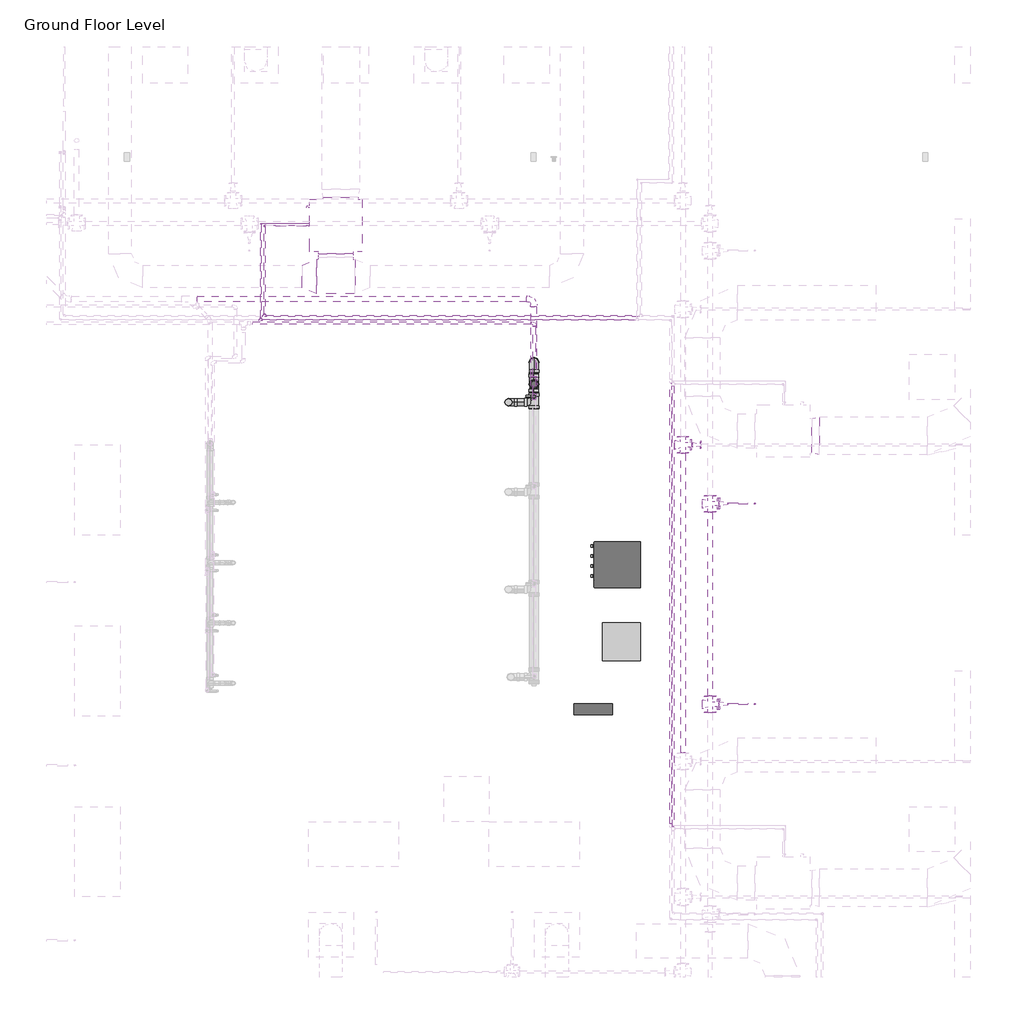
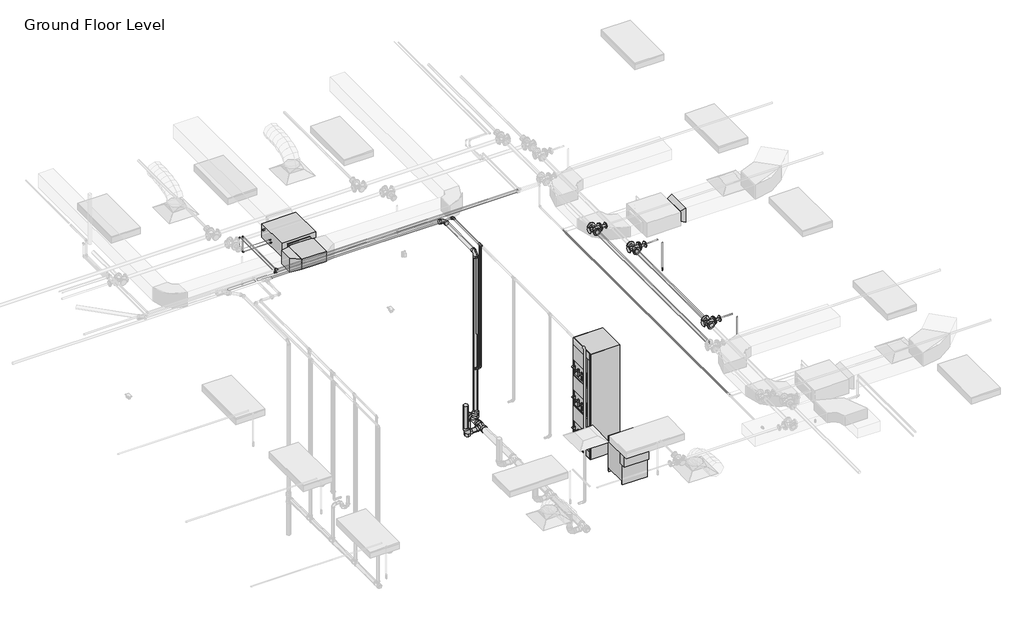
# One storey, part 66 of 74: 29 pipe segments, 24 pipe fittings, 4 duct fittings, 4 proxies, 2 fire suppression terminals, 1 duct segment.
"""IFC4 building model written with IfcOpenShell, lengths in millimetres."""

from ifc_helpers import new_model, si_unit, point, frame, frame_2d, origin, place, context, project, spatial, polyline, circle_curve, trimmed, segment, composite_curve, outline, extrude, transform, mapped, element, save
from components import proxy_75_kva_f23e4866, fcu_daikin_iu_bad131e0, m_circuit_breaker_switchboard_610mmx660mm_e90c0931, m_lighting_and_appliance_panelboard_208v_mlo_100_a_deb79597, m_rectangular_tee_standard_fa4de0e8, m_rectangular_transition_angle_45_degree_2b595dfe, m_rectangular_transition_angle_45_degree_27e6000f, m_rectangular_transition_angle_45_degree_6e5ad010, m_sprinkler_pendent_15_mm_pendent_06fcbd8e, m_bend_pvc_sch_40_dwv_standard_a4b99d37, m_bend_pvc_sch_40_dwv_standard_aa7efa4c, m_bend_pvc_sch_40_dwv_standard_c8221c0d, m_bend_pvc_sch_40_dwv_standard_69456cca, m_elbow_generic_standard_a088f956, m_elbow_generic_standard_2a704253, m_elbow_generic_standard_6b1a80c6, m_elbow_generic_standard_5542be81, m_reducer_flanged_cs_class_150_standard_9dfe9ec5, m_reducer_flanged_cs_class_150_standard_a7631c35, m_reducer_pvc_sch_40_dwv_standard_9996614f, m_tee_generic_standard_cdc1cff5, m_tee_generic_standard_bbfc025c, m_tee_reducing_sanitary_pvc_sch_40_dwv_standard_b49161a9, m_tee_reducing_sanitary_pvc_sch_40_dwv_standard_c42f3c59, m_tee_round_base_flanged_cs_class_150_standard_dd767e04, m_transition_generic_standard_e9aec4dd, m_transition_generic_standard_c2658a33, standard_517a5a8d, standard_72b35c3b

model = new_model("IFC4")

# Units and contexts
model_context = context("Model", 3, world=origin())
ifc_project = project(units=[si_unit("LENGTHUNIT", "METRE", prefix="MILLI")], contexts=[model_context])

# Site, building, storey
site = spatial("IfcSite", under=ifc_project)
building = spatial("IfcBuilding", under=site)
storey = spatial("IfcBuildingStorey", under=building, Name="Ground Floor Level", Elevation=900.0)

# Proxies
placement = place(None, origin())
proxy_75_kva_shape = proxy_75_kva_f23e4866(model_context)
element("IfcBuildingElementProxy", 1, Name="M_Dry Type Transformer - 480-208Y120 - NEMA Type 2 : 75 kVA", ObjectType="M_Dry Type Transformer - 480-208Y120 - NEMA Type 2 : 75 kVA", at=placement, inside=storey, context=model_context, shape_type="MappedRepresentation", body=[
    mapped(proxy_75_kva_shape, transform((4687.1500887, 9221.2802456, 900.0), x_axis=(0.0, -1.0, 0.0), y_axis=(1.0, 0.0, 0.0), z_axis=(0.0, 0.0, 1.0))),
])
fcu_daikin_iu_shape = fcu_daikin_iu_bad131e0(model_context)
element("IfcBuildingElementProxy", 2, Name="FCU-DAIKIN IU : 4.5kW, 230V/50Hz/1Ph", ObjectType="FCU-DAIKIN IU : 4.5kW, 230V/50Hz/1Ph", at=placement, inside=storey, context=model_context, shape_type="MappedRepresentation", body=[
    mapped(fcu_daikin_iu_shape, transform((1027.7672395, 14745.2153534, 3934.0872564), x_axis=(-1.0, 0.0, 0.0), y_axis=(0.0, -1.0, 0.0), z_axis=(0.0, 0.0, 1.0))),
])
m_circuit_breaker_switchboard_610mmx660mm_shape = m_circuit_breaker_switchboard_610mmx660mm_e90c0931(model_context)
element("IfcBuildingElementProxy", 3, Name="M_Circuit Breaker Switchboard : 610mmx660mm", ObjectType="M_Circuit Breaker Switchboard : 610mmx660mm", at=placement, inside=storey, context=model_context, shape_type="MappedRepresentation", body=[
    mapped(m_circuit_breaker_switchboard_610mmx660mm_shape, transform((5071.8659538, 10243.0819772, 900.0), x_axis=(0.0, -1.0, 0.0), y_axis=(1.0, 0.0, 0.0), z_axis=(0.0, 0.0, 1.0))),
])
m_lighting_and_appliance_panelboard_208v_mlo_100_a_shape = m_lighting_and_appliance_panelboard_208v_mlo_100_a_deb79597(model_context)
element("IfcBuildingElementProxy", 4, Name="M_Lighting and Appliance Panelboard - 208V MLO : 100 A", ObjectType="M_Lighting and Appliance Panelboard - 208V MLO : 100 A", at=placement, inside=storey, context=model_context, shape_type="MappedRepresentation", body=[
    mapped(m_lighting_and_appliance_panelboard_208v_mlo_100_a_shape, transform((4444.6213265, 8255.2153534, 1680.9), x_axis=(-1.0, 0.0, 0.0), y_axis=(0.0, 0.0, -1.0), z_axis=(0.0, -1.0, 0.0))),
])

# Duct fittings
m_rectangular_tee_standard_shape = m_rectangular_tee_standard_fa4de0e8(model_context)
element("IfcDuctFitting", 5, ObjectType="M_Rectangular Tee : Standard", at=placement, inside=storey, context=model_context, shape_type="MappedRepresentation", body=[
    mapped(m_rectangular_tee_standard_shape, transform((1027.7672395, 14069.8153534, 4075.2872564), x_axis=(-1.0, 0.0, 0.0), y_axis=(0.0, -1.0, 0.0), z_axis=(0.0, 0.0, 1.0))),
])
m_rectangular_transition_angle_45_degree_shape = m_rectangular_transition_angle_45_degree_2b595dfe(model_context)
element("IfcDuctFitting", 6, ObjectType="M_Rectangular Transition - Angle : 45 Degree", at=placement, inside=storey, context=model_context, shape_type="MappedRepresentation", body=[
    mapped(m_rectangular_transition_angle_45_degree_shape, transform((7344.2139492, 11956.1779527, 4100.0057729), x_axis=(1.0, 0.0, 0.0), y_axis=(0.0, 1.0, 0.0), z_axis=(0.0, 0.0, 1.0))),
])
m_rectangular_transition_angle_45_degree_2_shape = m_rectangular_transition_angle_45_degree_27e6000f(model_context)
element("IfcDuctFitting", 7, ObjectType="M_Rectangular Transition - Angle : 45 Degree", at=placement, inside=storey, context=model_context, shape_type="MappedRepresentation", body=[
    mapped(m_rectangular_transition_angle_45_degree_2_shape, transform((1027.7672395, 14369.8153534, 4075.2872564), x_axis=(0.0, -1.0, 0.0), y_axis=(1.0, 0.0, 0.0), z_axis=(0.0, 0.0, 1.0))),
])
m_rectangular_transition_angle_45_degree_3_shape = m_rectangular_transition_angle_45_degree_6e5ad010(model_context)
element("IfcDuctFitting", 8, ObjectType="M_Rectangular Transition - Angle : 45 Degree", at=placement, inside=storey, context=model_context, shape_type="MappedRepresentation", body=[
    mapped(m_rectangular_transition_angle_45_degree_3_shape, transform((771.8297395, 14069.8153534, 4075.2872564), x_axis=(-1.0, 0.0, 0.0), y_axis=(0.0, -1.0, 0.0), z_axis=(0.0, 0.0, 1.0))),
])

# Duct segment
element("IfcDuctSegment", 9, ObjectType="Radius Elbows / Taps", at=placement, inside=storey, context=model_context, shape_type="SweptSolid", body=[
    extrude(outline(polyline([(796.7672395, 14369.4532214), (1258.7672395, 14369.4532214), (1258.7672395, 14326.1149854), (796.7672395, 14326.1149854), (796.7672395, 14369.4532214)])), frame((0.0, 0.0, 3968.2872564), z_axis=(0.0, 0.0, 1.0), x_axis=(1.0, 0.0, 0.0)), (0.0, 0.0, 1.0), 214.0),
])

# Fire suppression terminals
m_sprinkler_pendent_15_mm_pendent_shape = m_sprinkler_pendent_15_mm_pendent_06fcbd8e(model_context)
element("IfcFireSuppressionTerminal", 10, ObjectType="M_Sprinkler - Pendent : 15 mm Pendent", at=placement, inside=storey, context=model_context, shape_type="MappedRepresentation", body=[
    mapped(m_sprinkler_pendent_15_mm_pendent_shape, transform((6592.5481019, 11054.9808263, 3650.0), x_axis=(1.0, 0.0, 0.0), y_axis=(0.0, 1.0, 0.0), z_axis=(0.0, 0.0, 1.0))),
])
element("IfcFireSuppressionTerminal", 11, ObjectType="M_Sprinkler - Pendent : 15 mm Pendent", at=placement, inside=storey, context=model_context, shape_type="MappedRepresentation", body=[
    mapped(m_sprinkler_pendent_15_mm_pendent_shape, transform((6592.5481019, 8393.5579106, 3650.0), x_axis=(1.0, 0.0, 0.0), y_axis=(0.0, 1.0, 0.0), z_axis=(0.0, 0.0, 1.0))),
])

# Pipe fittings
m_bend_pvc_sch_40_dwv_standard_shape = m_bend_pvc_sch_40_dwv_standard_a4b99d37(model_context)
element("IfcPipeFitting", 12, ObjectType="M_Bend - PVC - Sch 40 - DWV : Standard", at=placement, inside=storey, context=model_context, shape_type="MappedRepresentation", body=[
    mapped(m_bend_pvc_sch_40_dwv_standard_shape, transform((3319.2245422, 12401.0385609, 390.1593073), x_axis=(0.0, 0.0, -1.0), y_axis=(1.0, 0.0, 0.0), z_axis=(0.0, -1.0, 0.0))),
])
m_bend_pvc_sch_40_dwv_standard_2_shape = m_bend_pvc_sch_40_dwv_standard_aa7efa4c(model_context)
element("IfcPipeFitting", 13, ObjectType="M_Bend - PVC - Sch 40 - DWV : Standard", at=placement, inside=storey, context=model_context, shape_type="MappedRepresentation", body=[
    mapped(m_bend_pvc_sch_40_dwv_standard_2_shape, transform((3657.4922763, 12931.9692954, 384.8), x_axis=(0.0, 0.9999500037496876, -0.00999950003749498), y_axis=(0.0, -0.00999950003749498, -0.9999500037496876), z_axis=(-1.0, 0.0, 0.0))),
])
m_bend_pvc_sch_40_dwv_standard_3_shape = m_bend_pvc_sch_40_dwv_standard_c8221c0d(model_context)
element("IfcPipeFitting", 14, ObjectType="M_Bend - PVC - Sch 40 - DWV : Standard", at=placement, inside=storey, context=model_context, shape_type="MappedRepresentation", body=[
    mapped(m_bend_pvc_sch_40_dwv_standard_3_shape, transform((3657.4860907, 12640.4076203, 4054.1870995), x_axis=(0.0, 0.0, 1.0), y_axis=(0.0, 1.0, 0.0), z_axis=(-1.0, 0.0, 0.0))),
])
m_bend_pvc_sch_40_dwv_standard_4_shape = m_bend_pvc_sch_40_dwv_standard_69456cca(model_context)
element("IfcPipeFitting", 15, ObjectType="M_Bend - PVC - Sch 40 - DWV : Standard", at=placement, inside=storey, context=model_context, shape_type="MappedRepresentation", body=[
    mapped(m_bend_pvc_sch_40_dwv_standard_4_shape, transform((3657.4860907, 13768.7316659, 4065.526469), x_axis=(0.0, 0.9999495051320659, 0.010049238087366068), y_axis=(-0.9999499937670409, -0.00010049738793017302, 0.009999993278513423), z_axis=(0.01000049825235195, -0.010048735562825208, 0.9998995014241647))),
])
m_elbow_generic_standard_shape = m_elbow_generic_standard_a088f956(model_context)
element("IfcPipeFitting", 16, ObjectType="M_Elbow - Generic : Standard", at=placement, inside=storey, context=model_context, shape_type="MappedRepresentation", body=[
    mapped(m_elbow_generic_standard_shape, transform((79.6672395, 14745.2153534, 4380.0), x_axis=(0.0, 0.0, 1.0), y_axis=(0.0, -1.0, 0.0), z_axis=(1.0, 0.0, 0.0))),
])
m_elbow_generic_standard_2_shape = m_elbow_generic_standard_2a704253(model_context)
element("IfcPipeFitting", 17, ObjectType="M_Elbow - Generic : Standard", at=placement, inside=storey, context=model_context, shape_type="MappedRepresentation", body=[
    mapped(m_elbow_generic_standard_2_shape, transform((29.9807053, 14770.2153534, 4365.0), x_axis=(0.0, 0.0, 1.0), y_axis=(0.0, -1.0, 0.0), z_axis=(1.0, 0.0, 0.0))),
])
m_elbow_generic_standard_3_shape = m_elbow_generic_standard_6b1a80c6(model_context)
element("IfcPipeFitting", 18, ObjectType="M_Elbow - Generic : Standard", at=placement, inside=storey, context=model_context, shape_type="MappedRepresentation", body=[
    mapped(m_elbow_generic_standard_3_shape, transform((79.6640192, 14745.2153534, 4034.0996164), x_axis=(0.0, 0.0, -1.0), y_axis=(1.0, 0.0, 0.0), z_axis=(0.0, -1.0, 0.0))),
])
m_elbow_generic_standard_4_shape = m_elbow_generic_standard_5542be81(model_context)
element("IfcPipeFitting", 19, ObjectType="M_Elbow - Generic : Standard", at=placement, inside=storey, context=model_context, shape_type="MappedRepresentation", body=[
    mapped(m_elbow_generic_standard_4_shape, transform((29.9777475, 14770.2153534, 4084.8996164), x_axis=(0.0, 0.0, -1.0), y_axis=(1.0, 0.0, 0.0), z_axis=(0.0, -1.0, 0.0))),
])
m_reducer_flanged_cs_class_150_standard_shape = m_reducer_flanged_cs_class_150_standard_9dfe9ec5(model_context)
element("IfcPipeFitting", 20, ObjectType="M_Reducer - Flanged - CS - Class 150 : Standard", at=placement, inside=storey, context=model_context, shape_type="MappedRepresentation", body=[
    mapped(m_reducer_flanged_cs_class_150_standard_shape, transform((6111.057812, 11054.9808263, 4291.2754753), x_axis=(1.0, 0.0, 0.0), y_axis=(0.0, 0.0, -1.0), z_axis=(0.0, 1.0, 0.0))),
])
element("IfcPipeFitting", 21, ObjectType="M_Reducer - Flanged - CS - Class 150 : Standard", at=placement, inside=storey, context=model_context, shape_type="MappedRepresentation", body=[
    mapped(m_reducer_flanged_cs_class_150_standard_shape, transform((6111.057812, 8393.5579106, 4291.2754753), x_axis=(1.0, 0.0, 0.0), y_axis=(0.0, 0.0, -1.0), z_axis=(0.0, 1.0, 0.0))),
])
m_reducer_flanged_cs_class_150_standard_2_shape = m_reducer_flanged_cs_class_150_standard_a7631c35(model_context)
element("IfcPipeFitting", 22, ObjectType="M_Reducer - Flanged - CS - Class 150 : Standard", at=placement, inside=storey, context=model_context, shape_type="MappedRepresentation", body=[
    mapped(m_reducer_flanged_cs_class_150_standard_2_shape, transform((5749.869498, 11835.2153534, 4360.0), x_axis=(1.0, 0.0, 0.0), y_axis=(0.0, 0.0, 1.0), z_axis=(0.0, -1.0, 0.0))),
])
m_reducer_pvc_sch_40_dwv_standard_shape = m_reducer_pvc_sch_40_dwv_standard_9996614f(model_context)
element("IfcPipeFitting", 23, ObjectType="M_Reducer - PVC - Sch 40 - DWV : Standard", at=placement, inside=storey, context=model_context, shape_type="MappedRepresentation", body=[
    mapped(m_reducer_pvc_sch_40_dwv_standard_shape, transform((3657.4891752, 12640.1615283, 533.8243961), x_axis=(0.0, 7.101608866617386e-05, 0.9999999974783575), y_axis=(0.0, 0.9999999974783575, -7.101608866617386e-05), z_axis=(-1.0, 0.0, 0.0))),
])
m_tee_generic_standard_shape = m_tee_generic_standard_cdc1cff5(model_context)
element("IfcPipeFitting", 24, ObjectType="M_Tee - Generic : Standard", at=placement, inside=storey, context=model_context, shape_type="MappedRepresentation", body=[
    mapped(m_tee_generic_standard_shape, transform((29.9807053, 13494.0185138, 4365.0), x_axis=(-1.0, 0.0, 0.0), y_axis=(0.0, -1.0, 0.0), z_axis=(0.0, 0.0, 1.0))),
])
m_tee_generic_standard_2_shape = m_tee_generic_standard_bbfc025c(model_context)
element("IfcPipeFitting", 25, ObjectType="M_Tee - Generic : Standard", at=placement, inside=storey, context=model_context, shape_type="MappedRepresentation", body=[
    mapped(m_tee_generic_standard_2_shape, transform((79.6672395, 13545.2153534, 4380.0), x_axis=(-1.0, 0.0, 0.0), y_axis=(0.0, -1.0, 0.0), z_axis=(0.0, 0.0, 1.0))),
])
m_tee_reducing_sanitary_pvc_sch_40_dwv_standard_shape = m_tee_reducing_sanitary_pvc_sch_40_dwv_standard_b49161a9(model_context)
element("IfcPipeFitting", 26, ObjectType="M_Tee Reducing Sanitary - PVC - Sch 40 - DWV : Standard", at=placement, inside=storey, context=model_context, shape_type="MappedRepresentation", body=[
    mapped(m_tee_reducing_sanitary_pvc_sch_40_dwv_standard_shape, transform((3657.4922763, 12401.038061, 390.1093123), x_axis=(0.0, -0.9999500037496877, 0.009999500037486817), y_axis=(1.0000000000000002, 0.0, 0.0), z_axis=(0.0, 0.009999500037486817, 0.9999500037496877))),
])
m_tee_reducing_sanitary_pvc_sch_40_dwv_standard_2_shape = m_tee_reducing_sanitary_pvc_sch_40_dwv_standard_c42f3c59(model_context)
element("IfcPipeFitting", 27, ObjectType="M_Tee Reducing Sanitary - PVC - Sch 40 - DWV : Standard", at=placement, inside=storey, context=model_context, shape_type="MappedRepresentation", body=[
    mapped(m_tee_reducing_sanitary_pvc_sch_40_dwv_standard_2_shape, transform((3657.4922763, 12640.3832411, 387.7158605), x_axis=(0.0, -0.9999500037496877, 0.009999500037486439), y_axis=(0.0, -0.009999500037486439, -0.9999500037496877), z_axis=(1.0, 0.0, 0.0))),
])
m_tee_round_base_flanged_cs_class_150_standard_shape = m_tee_round_base_flanged_cs_class_150_standard_dd767e04(model_context)
element("IfcPipeFitting", 28, ObjectType="M_Tee Round Base - Flanged - CS - Class 150 : Standard", at=placement, inside=storey, context=model_context, shape_type="MappedRepresentation", body=[
    mapped(m_tee_round_base_flanged_cs_class_150_standard_shape, transform((5997.057812, 11054.9808263, 4291.0943441), x_axis=(0.0, 1.0, 0.0), y_axis=(-1.0, 0.0, 0.0), z_axis=(0.0, 0.0, 1.0))),
])
element("IfcPipeFitting", 29, ObjectType="M_Tee Round Base - Flanged - CS - Class 150 : Standard", at=placement, inside=storey, context=model_context, shape_type="MappedRepresentation", body=[
    mapped(m_tee_round_base_flanged_cs_class_150_standard_shape, transform((5997.057812, 8393.5579106, 4291.0943441), x_axis=(0.0, 1.0, 0.0), y_axis=(-1.0, 0.0, 0.0), z_axis=(0.0, 0.0, 1.0))),
])
element("IfcPipeFitting", 30, ObjectType="M_Tee Round Base - Flanged - CS - Class 150 : Standard", at=placement, inside=storey, context=model_context, shape_type="MappedRepresentation", body=[
    mapped(m_tee_round_base_flanged_cs_class_150_standard_shape, transform((5635.869498, 11835.2153534, 4360.0), x_axis=(0.0, 1.0, 0.0), y_axis=(-1.0, 0.0, 0.0), z_axis=(0.0, 0.0, 1.0))),
])
m_transition_generic_standard_shape = m_transition_generic_standard_e9aec4dd(model_context)
element("IfcPipeFitting", 31, ObjectType="M_Transition - Generic : Standard", at=placement, inside=storey, context=model_context, shape_type="MappedRepresentation", body=[
    mapped(m_transition_generic_standard_shape, transform((79.6672395, 13570.6153534, 4380.0), x_axis=(0.0, 1.0, 0.0), y_axis=(-1.0, 0.0, 0.0), z_axis=(0.0, 0.0, 1.0))),
])
m_transition_generic_standard_2_shape = m_transition_generic_standard_c2658a33(model_context)
element("IfcPipeFitting", 32, ObjectType="M_Transition - Generic : Standard", at=placement, inside=storey, context=model_context, shape_type="MappedRepresentation", body=[
    mapped(m_transition_generic_standard_2_shape, transform((29.9807053, 13516.2435138, 4365.0), x_axis=(0.0, 1.0, 0.0), y_axis=(-1.0, 0.0, 0.0), z_axis=(0.0, 0.0, 1.0))),
])
standard_shape = standard_517a5a8d(model_context)
element("IfcPipeFitting", 33, ObjectType="M_Elbow - CPVC - Sch 40 : Standard", at=placement, inside=storey, context=model_context, shape_type="MappedRepresentation", body=[
    mapped(standard_shape, transform((3662.4674395, 13449.9865561, 4315.0), x_axis=(0.0, 1.0, 0.0), y_axis=(-1.0, 0.0, 0.0), z_axis=(0.0, 0.0, 1.0))),
])
element("IfcPipeFitting", 34, ObjectType="M_Elbow - CPVC - Sch 40 : Standard", at=placement, inside=storey, context=model_context, shape_type="MappedRepresentation", body=[
    mapped(standard_shape, transform((3662.4674395, 12474.4768272, 1655.0), x_axis=(0.0, 0.0, -1.0), y_axis=(-1.0, 0.0, 0.0), z_axis=(0.0, 1.0, 0.0))),
])
standard_2_shape = standard_72b35c3b(model_context)
element("IfcPipeFitting", 35, ObjectType="M_Tee - CPVC - Sch 40 : Standard", at=placement, inside=storey, context=model_context, shape_type="MappedRepresentation", body=[
    mapped(standard_2_shape, transform((3662.4674395, 12474.4768272, 4315.0), x_axis=(0.0, -1.0, 0.0), y_axis=(0.0, 0.0, 1.0), z_axis=(-1.0, 0.0, 0.0))),
])

# Pipe segments
element("IfcPipeSegment", 36, ObjectType="CPVC", at=placement, inside=storey, context=model_context, shape_type="SweptSolid", body=[
    extrude(outline(composite_curve([segment(trimmed(circle_curve(frame_2d((13449.9865561, 4315.0)), 16.7005), [point((13433.2860561, 4315.0))], [point((13449.9865561, 4331.7005))], False, "CARTESIAN"), True, "CONTINUOUS"), segment(trimmed(circle_curve(frame_2d((13449.9865561, 4315.0)), 16.7005), [point((13449.9865561, 4331.7005))], [point((13466.6870561, 4315.0))], False, "CARTESIAN"), True, "CONTINUOUS"), segment(trimmed(circle_curve(frame_2d((13449.9865561, 4315.0)), 16.7005), [point((13466.6870561, 4315.0))], [point((13449.9865561, 4298.2995))], False, "CARTESIAN"), True, "CONTINUOUS"), segment(trimmed(circle_curve(frame_2d((13449.9865561, 4315.0)), 16.7005), [point((13449.9865561, 4298.2995))], [point((13433.2860561, 4315.0))], False, "CARTESIAN"), True, "CONTINUOUS")], self_intersect=False)), frame((-77.1388855, 0.0, 0.0), z_axis=(1.0, 0.0, 0.0), x_axis=(0.0, 1.0, 0.0)), (0.0, 0.0, 1.0), 3696.343775),
])
element("IfcPipeSegment", 37, ObjectType="CPVC", at=placement, inside=storey, context=model_context, shape_type="SweptSolid", body=[
    extrude(outline(composite_curve([segment(trimmed(circle_curve(frame_2d((12474.4768272, 1655.0)), 16.7005), [point((12491.1773272, 1655.0))], [point((12474.4768272, 1638.2995))], False, "CARTESIAN"), True, "CONTINUOUS"), segment(trimmed(circle_curve(frame_2d((12474.4768272, 1655.0)), 16.7005), [point((12474.4768272, 1638.2995))], [point((12457.7763272, 1655.0))], False, "CARTESIAN"), True, "CONTINUOUS"), segment(trimmed(circle_curve(frame_2d((12474.4768272, 1655.0)), 16.7005), [point((12457.7763272, 1655.0))], [point((12474.4768272, 1671.7005))], False, "CARTESIAN"), True, "CONTINUOUS"), segment(trimmed(circle_curve(frame_2d((12474.4768272, 1655.0)), 16.7005), [point((12474.4768272, 1671.7005))], [point((12491.1773272, 1655.0))], False, "CARTESIAN"), True, "CONTINUOUS")], self_intersect=False)), frame((3552.7672395, 0.0, 0.0), z_axis=(1.0, 0.0, 0.0), x_axis=(0.0, 1.0, 0.0)), (0.0, 0.0, 1.0), 66.43765),
])
element("IfcPipeSegment", 38, ObjectType="CPVC", at=placement, inside=storey, context=model_context, shape_type="SweptSolid", body=[
    extrude(outline(composite_curve([segment(trimmed(circle_curve(frame_2d((3662.4674395, 12474.4768272)), 16.7005), [point((3679.1679395, 12474.4768272))], [point((3662.4674395, 12457.7763272))], False, "CARTESIAN"), True, "CONTINUOUS"), segment(trimmed(circle_curve(frame_2d((3662.4674395, 12474.4768272)), 16.7005), [point((3662.4674395, 12457.7763272))], [point((3645.7669395, 12474.4768272))], False, "CARTESIAN"), True, "CONTINUOUS"), segment(trimmed(circle_curve(frame_2d((3662.4674395, 12474.4768272)), 16.7005), [point((3645.7669395, 12474.4768272))], [point((3662.4674395, 12491.1773272))], False, "CARTESIAN"), True, "CONTINUOUS"), segment(trimmed(circle_curve(frame_2d((3662.4674395, 12474.4768272)), 16.7005), [point((3662.4674395, 12491.1773272))], [point((3679.1679395, 12474.4768272))], False, "CARTESIAN"), True, "CONTINUOUS")], self_intersect=False)), frame((0.0, 0.0, 1698.26255), z_axis=(0.0, 0.0, 1.0), x_axis=(1.0, 0.0, 0.0)), (0.0, 0.0, 1.0), 2577.03725),
])
element("IfcPipeSegment", 39, ObjectType="CPVC", at=placement, inside=storey, context=model_context, shape_type="SweptSolid", body=[
    extrude(outline(composite_curve([segment(trimmed(circle_curve(frame_2d((4315.0, 3662.4674395)), 16.7005), [point((4315.0, 3645.7669395))], [point((4298.2995, 3662.4674395))], False, "CARTESIAN"), True, "CONTINUOUS"), segment(trimmed(circle_curve(frame_2d((4315.0, 3662.4674395)), 16.7005), [point((4298.2995, 3662.4674395))], [point((4315.0, 3679.1679395))], False, "CARTESIAN"), True, "CONTINUOUS"), segment(trimmed(circle_curve(frame_2d((4315.0, 3662.4674395)), 16.7005), [point((4315.0, 3679.1679395))], [point((4331.7005, 3662.4674395))], False, "CARTESIAN"), True, "CONTINUOUS"), segment(trimmed(circle_curve(frame_2d((4315.0, 3662.4674395)), 16.7005), [point((4331.7005, 3662.4674395))], [point((4315.0, 3645.7669395))], False, "CARTESIAN"), True, "CONTINUOUS")], self_intersect=False)), frame((0.0, 12514.1770272, 0.0), z_axis=(0.0, 1.0, 0.0), x_axis=(0.0, 0.0, 1.0)), (0.0, 0.0, 1.0), 892.546979),
])
element("IfcPipeSegment", 40, ObjectType="Copper", at=placement, inside=storey, context=model_context, shape_type="SweptSolid", body=[
    extrude(outline(composite_curve([segment(trimmed(circle_curve(frame_2d((0.0, -6.5)), 6.5), [point((-6.5, -6.5))], [point((0.0, 0.0))], False, "CARTESIAN"), True, "CONTINUOUS"), segment(trimmed(circle_curve(frame_2d((0.0, -6.5)), 6.5), [point((0.0, 0.0))], [point((6.5, -6.5))], False, "CARTESIAN"), True, "CONTINUOUS"), segment(trimmed(circle_curve(frame_2d((0.0, -6.5)), 6.5), [point((6.5, -6.5))], [point((0.0, -13.0))], False, "CARTESIAN"), True, "CONTINUOUS"), segment(trimmed(circle_curve(frame_2d((0.0, -6.5)), 6.5), [point((0.0, -13.0))], [point((-6.5, -6.5))], False, "CARTESIAN"), True, "CONTINUOUS")], self_intersect=False)), frame((639.667096, 14745.2153534, 4027.5872564), z_axis=(-0.9999999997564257, 0.0, 2.207144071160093e-05), x_axis=(0.0, 1.0, 0.0)), (0.0, 0.0, 1.0), 545.7160357),
])
element("IfcPipeSegment", 41, ObjectType="Copper", at=placement, inside=storey, context=model_context, shape_type="SweptSolid", body=[
    extrude(outline(composite_curve([segment(trimmed(circle_curve(frame_2d((0.0, -3.35)), 3.35), [point((-3.35, -3.35))], [point((0.0, 0.0))], False, "CARTESIAN"), True, "CONTINUOUS"), segment(trimmed(circle_curve(frame_2d((0.0, -3.35)), 3.35), [point((0.0, 0.0))], [point((3.35, -3.35))], False, "CARTESIAN"), True, "CONTINUOUS"), segment(trimmed(circle_curve(frame_2d((0.0, -3.35)), 3.35), [point((3.35, -3.35))], [point((0.0, -6.7))], False, "CARTESIAN"), True, "CONTINUOUS"), segment(trimmed(circle_curve(frame_2d((0.0, -3.35)), 3.35), [point((0.0, -6.7))], [point((-3.35, -3.35))], False, "CARTESIAN"), True, "CONTINUOUS")], self_intersect=False)), frame((639.6671716, 14770.2153534, 4081.5372564), z_axis=(-0.9999999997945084, 0.0, 2.027272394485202e-05), x_axis=(0.0, 1.0, 0.0)), (0.0, 0.0, 1.0), 598.5522179),
])
element("IfcPipeSegment", 42, ObjectType="Copper", at=placement, inside=storey, context=model_context, shape_type="SweptSolid", body=[
    extrude(outline(composite_curve([segment(trimmed(circle_curve(frame_2d((4380.0, 79.6672395)), 6.5), [point((4380.0, 73.1672395))], [point((4373.5, 79.6672395))], False, "CARTESIAN"), True, "CONTINUOUS"), segment(trimmed(circle_curve(frame_2d((4380.0, 79.6672395)), 6.5), [point((4373.5, 79.6672395))], [point((4380.0, 86.1672395))], False, "CARTESIAN"), True, "CONTINUOUS"), segment(trimmed(circle_curve(frame_2d((4380.0, 79.6672395)), 6.5), [point((4380.0, 86.1672395))], [point((4386.5, 79.6672395))], False, "CARTESIAN"), True, "CONTINUOUS"), segment(trimmed(circle_curve(frame_2d((4380.0, 79.6672395)), 6.5), [point((4386.5, 79.6672395))], [point((4380.0, 73.1672395))], False, "CARTESIAN"), True, "CONTINUOUS")], self_intersect=False)), frame((0.0, 13576.9653534, 0.0), z_axis=(0.0, 1.0, 0.0), x_axis=(0.0, 0.0, 1.0)), (0.0, 0.0, 1.0), 1153.9625),
])
element("IfcPipeSegment", 43, ObjectType="Copper", at=placement, inside=storey, context=model_context, shape_type="SweptSolid", body=[
    extrude(outline(composite_curve([segment(trimmed(circle_curve(frame_2d((0.0, -6.5)), 6.5), [point((-6.5, -6.5))], [point((0.0, 0.0))], False, "CARTESIAN"), True, "CONTINUOUS"), segment(trimmed(circle_curve(frame_2d((0.0, -6.5)), 6.5), [point((0.0, 0.0))], [point((6.5, -6.5))], False, "CARTESIAN"), True, "CONTINUOUS"), segment(trimmed(circle_curve(frame_2d((0.0, -6.5)), 6.5), [point((6.5, -6.5))], [point((0.0, -13.0))], False, "CARTESIAN"), True, "CONTINUOUS"), segment(trimmed(circle_curve(frame_2d((0.0, -6.5)), 6.5), [point((0.0, -13.0))], [point((-6.5, -6.5))], False, "CARTESIAN"), True, "CONTINUOUS")], self_intersect=False)), frame((79.6640192, 14738.7153534, 4048.3868011), z_axis=(1.014803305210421e-05, 0.0, 0.9999999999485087), x_axis=(-0.9999999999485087, 0.0, 1.014803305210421e-05)), (0.0, 0.0, 1.0), 317.3256989),
])
element("IfcPipeSegment", 44, ObjectType="Copper", at=placement, inside=storey, context=model_context, shape_type="SweptSolid", body=[
    extrude(outline(composite_curve([segment(trimmed(circle_curve(frame_2d((4365.0, 29.9807053)), 3.35), [point((4365.0, 26.6307053))], [point((4361.65, 29.9807053))], False, "CARTESIAN"), True, "CONTINUOUS"), segment(trimmed(circle_curve(frame_2d((4365.0, 29.9807053)), 3.35), [point((4361.65, 29.9807053))], [point((4365.0, 33.3307053))], False, "CARTESIAN"), True, "CONTINUOUS"), segment(trimmed(circle_curve(frame_2d((4365.0, 29.9807053)), 3.35), [point((4365.0, 33.3307053))], [point((4368.35, 29.9807053))], False, "CARTESIAN"), True, "CONTINUOUS"), segment(trimmed(circle_curve(frame_2d((4365.0, 29.9807053)), 3.35), [point((4368.35, 29.9807053))], [point((4365.0, 26.6307053))], False, "CARTESIAN"), True, "CONTINUOUS")], self_intersect=False)), frame((0.0, 13521.0060138, 0.0), z_axis=(0.0, 1.0, 0.0), x_axis=(0.0, 0.0, 1.0)), (0.0, 0.0, 1.0), 1238.0718396),
])
element("IfcPipeSegment", 45, ObjectType="Copper", at=placement, inside=storey, context=model_context, shape_type="SweptSolid", body=[
    extrude(outline(composite_curve([segment(trimmed(circle_curve(frame_2d((0.0, -3.35)), 3.35), [point((-3.35, -3.35))], [point((0.0, 0.0))], False, "CARTESIAN"), True, "CONTINUOUS"), segment(trimmed(circle_curve(frame_2d((0.0, -3.35)), 3.35), [point((0.0, 0.0))], [point((3.35, -3.35))], False, "CARTESIAN"), True, "CONTINUOUS"), segment(trimmed(circle_curve(frame_2d((0.0, -3.35)), 3.35), [point((3.35, -3.35))], [point((0.0, -6.7))], False, "CARTESIAN"), True, "CONTINUOUS"), segment(trimmed(circle_curve(frame_2d((0.0, -3.35)), 3.35), [point((0.0, -6.7))], [point((-3.35, -3.35))], False, "CARTESIAN"), True, "CONTINUOUS")], self_intersect=False)), frame((29.9777475, 14766.8653534, 4096.0368906), z_axis=(1.1472088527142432e-05, 0.0, 0.9999999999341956), x_axis=(-0.9999999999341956, 0.0, 1.1472088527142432e-05)), (0.0, 0.0, 1.0), 257.8256094),
])
element("IfcPipeSegment", 46, ObjectType="Copper", at=placement, inside=storey, context=model_context, shape_type="SweptSolid", body=[
    extrude(outline(composite_curve([segment(trimmed(circle_curve(frame_2d((3851.8370709, 5505.0672395)), 11.5), [point((3851.8370709, 5493.5672395))], [point((3840.3370709, 5505.0672395))], False, "CARTESIAN"), True, "CONTINUOUS"), segment(trimmed(circle_curve(frame_2d((3851.8370709, 5505.0672395)), 11.5), [point((3840.3370709, 5505.0672395))], [point((3851.8370709, 5516.5672395))], False, "CARTESIAN"), True, "CONTINUOUS"), segment(trimmed(circle_curve(frame_2d((3851.8370709, 5505.0672395)), 11.5), [point((3851.8370709, 5516.5672395))], [point((3863.3370709, 5505.0672395))], False, "CARTESIAN"), True, "CONTINUOUS"), segment(trimmed(circle_curve(frame_2d((3851.8370709, 5505.0672395)), 11.5), [point((3863.3370709, 5505.0672395))], [point((3851.8370709, 5493.5672395))], False, "CARTESIAN"), True, "CONTINUOUS")], self_intersect=False)), frame((0.0, 6766.8098545, 0.0), z_axis=(0.0, 1.0, 0.0), x_axis=(0.0, 0.0, 1.0)), (0.0, 0.0, 1.0), 5849.2),
])
element("IfcPipeSegment", 47, ObjectType="Copper", at=placement, inside=storey, context=model_context, shape_type="SweptSolid", body=[
    extrude(outline(composite_curve([segment(trimmed(circle_curve(frame_2d((3894.9, 5472.2057053)), 8.1), [point((3894.9, 5464.1057053))], [point((3886.8, 5472.2057053))], False, "CARTESIAN"), True, "CONTINUOUS"), segment(trimmed(circle_curve(frame_2d((3894.9, 5472.2057053)), 8.1), [point((3886.8, 5472.2057053))], [point((3894.9, 5480.3057053))], False, "CARTESIAN"), True, "CONTINUOUS"), segment(trimmed(circle_curve(frame_2d((3894.9, 5472.2057053)), 8.1), [point((3894.9, 5480.3057053))], [point((3903.0, 5472.2057053))], False, "CARTESIAN"), True, "CONTINUOUS"), segment(trimmed(circle_curve(frame_2d((3894.9, 5472.2057053)), 8.1), [point((3903.0, 5472.2057053))], [point((3894.9, 5464.1057053))], False, "CARTESIAN"), True, "CONTINUOUS")], self_intersect=False)), frame((0.0, 6803.7503374, 0.0), z_axis=(0.0, 1.0, 0.0), x_axis=(0.0, 0.0, 1.0)), (0.0, 0.0, 1.0), 5855.55),
])
element("IfcPipeSegment", 48, ObjectType="Copper", at=placement, inside=storey, context=model_context, shape_type="SweptSolid", body=[
    extrude(outline(composite_curve([segment(trimmed(circle_curve(frame_2d((13494.0185138, 4365.0)), 8.1), [point((13485.9185138, 4365.0))], [point((13494.0185138, 4373.1))], False, "CARTESIAN"), True, "CONTINUOUS"), segment(trimmed(circle_curve(frame_2d((13494.0185138, 4365.0)), 8.1), [point((13494.0185138, 4373.1))], [point((13502.1185138, 4365.0))], False, "CARTESIAN"), True, "CONTINUOUS"), segment(trimmed(circle_curve(frame_2d((13494.0185138, 4365.0)), 8.1), [point((13502.1185138, 4365.0))], [point((13494.0185138, 4356.9))], False, "CARTESIAN"), True, "CONTINUOUS"), segment(trimmed(circle_curve(frame_2d((13494.0185138, 4365.0)), 8.1), [point((13494.0185138, 4356.9))], [point((13485.9185138, 4365.0))], False, "CARTESIAN"), True, "CONTINUOUS")], self_intersect=False)), frame((52.2057053, 0.0, 0.0), z_axis=(1.0, 0.0, 0.0), x_axis=(0.0, 1.0, 0.0)), (0.0, 0.0, 1.0), 4955.55),
])
element("IfcPipeSegment", 49, ObjectType="Copper", at=placement, inside=storey, context=model_context, shape_type="SweptSolid", body=[
    extrude(outline(composite_curve([segment(trimmed(circle_curve(frame_2d((13545.2153534, 4380.0)), 11.5), [point((13533.7153534, 4380.0))], [point((13545.2153534, 4391.5))], False, "CARTESIAN"), True, "CONTINUOUS"), segment(trimmed(circle_curve(frame_2d((13545.2153534, 4380.0)), 11.5), [point((13545.2153534, 4391.5))], [point((13556.7153534, 4380.0))], False, "CARTESIAN"), True, "CONTINUOUS"), segment(trimmed(circle_curve(frame_2d((13545.2153534, 4380.0)), 11.5), [point((13556.7153534, 4380.0))], [point((13545.2153534, 4368.5))], False, "CARTESIAN"), True, "CONTINUOUS"), segment(trimmed(circle_curve(frame_2d((13545.2153534, 4380.0)), 11.5), [point((13545.2153534, 4368.5))], [point((13533.7153534, 4380.0))], False, "CARTESIAN"), True, "CONTINUOUS")], self_intersect=False)), frame((105.0672395, 0.0, 0.0), z_axis=(1.0, 0.0, 0.0), x_axis=(0.0, 1.0, 0.0)), (0.0, 0.0, 1.0), 4949.2),
])
element("IfcPipeSegment", 50, ObjectType="PVC - DWV", at=placement, inside=storey, context=model_context, shape_type="SweptSolid", body=[
    extrude(outline(composite_curve([segment(trimmed(circle_curve(frame_2d((3657.4922763, 12931.9692954)), 57.15), [point((3714.6422763, 12931.9692954))], [point((3657.4922763, 12874.8192954))], False, "CARTESIAN"), True, "CONTINUOUS"), segment(trimmed(circle_curve(frame_2d((3657.4922763, 12931.9692954)), 57.15), [point((3657.4922763, 12874.8192954))], [point((3600.3422763, 12931.9692954))], False, "CARTESIAN"), True, "CONTINUOUS"), segment(trimmed(circle_curve(frame_2d((3657.4922763, 12931.9692954)), 57.15), [point((3600.3422763, 12931.9692954))], [point((3657.4922763, 12989.1192954))], False, "CARTESIAN"), True, "CONTINUOUS"), segment(trimmed(circle_curve(frame_2d((3657.4922763, 12931.9692954)), 57.15), [point((3657.4922763, 12989.1192954))], [point((3714.6422763, 12931.9692954))], False, "CARTESIAN"), True, "CONTINUOUS")], self_intersect=False)), frame((0.0, 0.0, -100.0), z_axis=(0.0, 0.0, 1.0), x_axis=(1.0, 0.0, 0.0)), (0.0, 0.0, 1.0), 341.925),
])
element("IfcPipeSegment", 51, ObjectType="PVC - DWV", at=placement, inside=storey, context=model_context, shape_type="SweptSolid", body=[
    extrude(outline(composite_curve([segment(trimmed(circle_curve(frame_2d((0.0, -44.45)), 44.45), [point((-44.45, -44.45))], [point((0.0, 0.0))], False, "CARTESIAN"), True, "CONTINUOUS"), segment(trimmed(circle_curve(frame_2d((0.0, -44.45)), 44.45), [point((0.0, 0.0))], [point((44.45, -44.45))], False, "CARTESIAN"), True, "CONTINUOUS"), segment(trimmed(circle_curve(frame_2d((0.0, -44.45)), 44.45), [point((44.45, -44.45))], [point((0.0, -88.9))], False, "CARTESIAN"), True, "CONTINUOUS"), segment(trimmed(circle_curve(frame_2d((0.0, -44.45)), 44.45), [point((0.0, -88.9))], [point((-44.45, -44.45))], False, "CARTESIAN"), True, "CONTINUOUS")], self_intersect=False)), frame((3319.2245422, 12356.5885609, 506.0594614), z_axis=(0.0, -1.0330815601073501e-06, 0.9999999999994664), x_axis=(-1.0, 0.0, 0.0)), (0.0, 0.0, 1.0), 483.9404927),
])
element("IfcPipeSegment", 52, ObjectType="PVC - DWV", at=placement, inside=storey, context=model_context, shape_type="SweptSolid", body=[
    extrude(outline(composite_curve([segment(trimmed(circle_curve(frame_2d((12401.038061, 390.1093123)), 44.45), [point((12356.588061, 390.1093123))], [point((12401.038061, 434.5593123))], False, "CARTESIAN"), True, "CONTINUOUS"), segment(trimmed(circle_curve(frame_2d((12401.038061, 390.1093123)), 44.45), [point((12401.038061, 434.5593123))], [point((12445.488061, 390.1093123))], False, "CARTESIAN"), True, "CONTINUOUS"), segment(trimmed(circle_curve(frame_2d((12401.038061, 390.1093123)), 44.45), [point((12445.488061, 390.1093123))], [point((12401.038061, 345.6593123))], False, "CARTESIAN"), True, "CONTINUOUS"), segment(trimmed(circle_curve(frame_2d((12401.038061, 390.1093123)), 44.45), [point((12401.038061, 345.6593123))], [point((12356.588061, 390.1093123))], False, "CARTESIAN"), True, "CONTINUOUS")], self_intersect=False)), frame((3435.1247422, 0.0, 0.0), z_axis=(1.0, 0.0, 0.0), x_axis=(0.0, 1.0, 0.0)), (0.0, 0.0, 1.0), 93.767334),
])
element("IfcPipeSegment", 53, ObjectType="PVC - DWV", at=placement, inside=storey, context=model_context, shape_type="SweptSolid", body=[
    extrude(outline(composite_curve([segment(trimmed(circle_curve(frame_2d((0.0, 36.5125)), 36.5125), [point((36.5125, 36.5125))], [point((0.0, 0.0))], False, "CARTESIAN"), True, "CONTINUOUS"), segment(trimmed(circle_curve(frame_2d((0.0, 36.5125)), 36.5125), [point((0.0, 0.0))], [point((-36.5125, 36.5125))], False, "CARTESIAN"), True, "CONTINUOUS"), segment(trimmed(circle_curve(frame_2d((0.0, 36.5125)), 36.5125), [point((-36.5125, 36.5125))], [point((0.0, 73.025))], False, "CARTESIAN"), True, "CONTINUOUS"), segment(trimmed(circle_curve(frame_2d((0.0, 36.5125)), 36.5125), [point((0.0, 73.025))], [point((36.5125, 36.5125))], False, "CARTESIAN"), True, "CONTINUOUS")], self_intersect=False)), frame((3657.4860907, 12739.0497603, 4091.6927716), z_axis=(0.0, 0.9999495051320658, 0.010049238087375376), x_axis=(1.0, 0.0, 0.0)), (0.0, 0.0, 1.0), 930.3528981),
])
element("IfcPipeSegment", 54, ObjectType="PVC - DWV", at=placement, inside=storey, context=model_context, shape_type="SweptSolid", body=[
    extrude(outline(composite_curve([segment(trimmed(circle_curve(frame_2d((0.0, 57.1499999)), 57.15), [point((-57.15, 57.1499999))], [point((0.0, 114.3))], False, "CARTESIAN"), True, "CONTINUOUS"), segment(trimmed(circle_curve(frame_2d((0.0, 57.1499999)), 57.15), [point((0.0, 114.3))], [point((57.15, 57.1499999))], False, "CARTESIAN"), True, "CONTINUOUS"), segment(trimmed(circle_curve(frame_2d((0.0, 57.1499999)), 57.15), [point((57.15, 57.1499999))], [point((0.0, 0.0))], False, "CARTESIAN"), True, "CONTINUOUS"), segment(trimmed(circle_curve(frame_2d((0.0, 57.1499999)), 57.15), [point((0.0, 0.0))], [point((-57.15, 57.1499999))], False, "CARTESIAN"), True, "CONTINUOUS")], self_intersect=False)), frame((3657.4891752, 12583.0107966, 528.5214125), z_axis=(0.0, 0.0001378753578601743, 0.9999999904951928), x_axis=(1.0, 0.0, 0.0)), (0.0, 0.0, 1.0), 5.3108632),
])
element("IfcPipeSegment", 55, ObjectType="PVC - DWV", at=placement, inside=storey, context=model_context, shape_type="SweptSolid", body=[
    extrude(outline(composite_curve([segment(trimmed(circle_curve(frame_2d((0.0, -57.15)), 57.15), [point((57.15, -57.15))], [point((0.0, -114.3))], False, "CARTESIAN"), True, "CONTINUOUS"), segment(trimmed(circle_curve(frame_2d((0.0, -57.15)), 57.15), [point((0.0, -114.3))], [point((-57.15, -57.15))], False, "CARTESIAN"), True, "CONTINUOUS"), segment(trimmed(circle_curve(frame_2d((0.0, -57.15)), 57.15), [point((-57.15, -57.15))], [point((0.0, 0.0))], False, "CARTESIAN"), True, "CONTINUOUS"), segment(trimmed(circle_curve(frame_2d((0.0, -57.15)), 57.15), [point((0.0, 0.0))], [point((57.15, -57.15))], False, "CARTESIAN"), True, "CONTINUOUS")], self_intersect=False)), frame((3657.4922763, 12789.6729101, 443.3758213), z_axis=(0.0, -0.9999500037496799, 0.009999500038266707), x_axis=(1.0, 0.0, 0.0)), (0.0, 0.0, 1.0), 10.815727),
])
element("IfcPipeSegment", 56, ObjectType="PVC - DWV", at=placement, inside=storey, context=model_context, shape_type="SweptSolid", body=[
    extrude(outline(composite_curve([segment(trimmed(circle_curve(frame_2d((0.0, 36.5125)), 36.5125), [point((-36.5125, 36.5125))], [point((0.0, 73.025))], False, "CARTESIAN"), True, "CONTINUOUS"), segment(trimmed(circle_curve(frame_2d((0.0, 36.5125)), 36.5125), [point((0.0, 73.025))], [point((36.5125, 36.5125))], False, "CARTESIAN"), True, "CONTINUOUS"), segment(trimmed(circle_curve(frame_2d((0.0, 36.5125)), 36.5125), [point((36.5125, 36.5125))], [point((0.0, 0.0))], False, "CARTESIAN"), True, "CONTINUOUS"), segment(trimmed(circle_curve(frame_2d((0.0, 36.5125)), 36.5125), [point((0.0, 0.0))], [point((-36.5125, 36.5125))], False, "CARTESIAN"), True, "CONTINUOUS")], self_intersect=False)), frame((3657.4891752, 12603.6564102, 637.7731169), z_axis=(-9.298042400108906e-07, 7.1956944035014e-05, 0.9999999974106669), x_axis=(0.9999999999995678, 6.690470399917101e-11, 9.298042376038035e-07)), (0.0, 0.0, 1.0), 3317.402556),
])
element("IfcPipeSegment", 57, ObjectType="PVC - DWV", at=placement, inside=storey, context=model_context, shape_type="SweptSolid", body=[
    extrude(outline(composite_curve([segment(trimmed(circle_curve(frame_2d((0.0, -57.15)), 57.15), [point((57.15, -57.15))], [point((0.0, -114.3))], False, "CARTESIAN"), True, "CONTINUOUS"), segment(trimmed(circle_curve(frame_2d((0.0, -57.15)), 57.15), [point((0.0, -114.3))], [point((-57.15, -57.15))], False, "CARTESIAN"), True, "CONTINUOUS"), segment(trimmed(circle_curve(frame_2d((0.0, -57.15)), 57.15), [point((-57.15, -57.15))], [point((0.0, 0.0))], False, "CARTESIAN"), True, "CONTINUOUS"), segment(trimmed(circle_curve(frame_2d((0.0, -57.15)), 57.15), [point((0.0, 0.0))], [point((57.15, -57.15))], False, "CARTESIAN"), True, "CONTINUOUS")], self_intersect=False)), frame((3657.4922763, 12531.8027259, 445.9545231), z_axis=(0.0, -0.9999500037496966, 0.009999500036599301), x_axis=(1.0, 0.0, 0.0)), (0.0, 0.0, 1.0), 9.549703),
])
element("IfcPipeSegment", 58, ObjectType="PVC - DWV", at=placement, inside=storey, context=model_context, shape_type="SweptSolid", body=[
    extrude(outline(composite_curve([segment(trimmed(circle_curve(frame_2d((0.0, -36.5125)), 36.5125), [point((0.0, -73.025))], [point((-36.5125, -36.5125))], False, "CARTESIAN"), True, "CONTINUOUS"), segment(trimmed(circle_curve(frame_2d((0.0, -36.5125)), 36.5125), [point((-36.5125, -36.5125))], [point((0.0, 0.0))], False, "CARTESIAN"), True, "CONTINUOUS"), segment(trimmed(circle_curve(frame_2d((0.0, -36.5125)), 36.5125), [point((0.0, 0.0))], [point((36.5124999, -36.5125))], False, "CARTESIAN"), True, "CONTINUOUS"), segment(trimmed(circle_curve(frame_2d((0.0, -36.5125)), 36.5125), [point((36.5124999, -36.5125))], [point((0.0, -73.025))], False, "CARTESIAN"), True, "CONTINUOUS")], self_intersect=False)), frame((3558.47698, 13805.2441659, 4066.516709), z_axis=(-0.9999499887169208, 0.0, 0.010001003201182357), x_axis=(0.010001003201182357, 0.0, 0.9999499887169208)), (0.0, 0.0, 1.0), 4372.6285655),
])
element("IfcPipeSegment", 59, ObjectType="Steel flanged", at=placement, inside=storey, context=model_context, shape_type="SweptSolid", body=[
    extrude(outline(composite_curve([segment(trimmed(circle_curve(frame_2d((6592.5481019, 11054.9808263)), 10.668), [point((6581.8801019, 11054.9808263))], [point((6592.5481019, 11065.6488263))], False, "CARTESIAN"), True, "CONTINUOUS"), segment(trimmed(circle_curve(frame_2d((6592.5481019, 11054.9808263)), 10.668), [point((6592.5481019, 11065.6488263))], [point((6603.2161019, 11054.9808263))], False, "CARTESIAN"), True, "CONTINUOUS"), segment(trimmed(circle_curve(frame_2d((6592.5481019, 11054.9808263)), 10.668), [point((6603.2161019, 11054.9808263))], [point((6592.5481019, 11044.3128263))], False, "CARTESIAN"), True, "CONTINUOUS"), segment(trimmed(circle_curve(frame_2d((6592.5481019, 11054.9808263)), 10.668), [point((6592.5481019, 11044.3128263))], [point((6581.8801019, 11054.9808263))], False, "CARTESIAN"), True, "CONTINUOUS")], self_intersect=False)), frame((0.0, 0.0, 3650.0), z_axis=(0.0, 0.0, 1.0), x_axis=(1.0, 0.0, 0.0)), (0.0, 0.0, 1.0), 548.2668816),
])
element("IfcPipeSegment", 60, ObjectType="Steel flanged", at=placement, inside=storey, context=model_context, shape_type="SweptSolid", body=[
    extrude(outline(composite_curve([segment(trimmed(circle_curve(frame_2d((11054.9808263, 4291.2754753)), 10.668), [point((11065.6488263, 4291.2754753))], [point((11054.9808263, 4280.6074753))], False, "CARTESIAN"), True, "CONTINUOUS"), segment(trimmed(circle_curve(frame_2d((11054.9808263, 4291.2754753)), 10.668), [point((11054.9808263, 4280.6074753))], [point((11044.3128263, 4291.2754753))], False, "CARTESIAN"), True, "CONTINUOUS"), segment(trimmed(circle_curve(frame_2d((11054.9808263, 4291.2754753)), 10.668), [point((11044.3128263, 4291.2754753))], [point((11054.9808263, 4301.9434753))], False, "CARTESIAN"), True, "CONTINUOUS"), segment(trimmed(circle_curve(frame_2d((11054.9808263, 4291.2754753)), 10.668), [point((11054.9808263, 4301.9434753))], [point((11065.6488263, 4291.2754753))], False, "CARTESIAN"), True, "CONTINUOUS")], self_intersect=False)), frame((6238.057812, 0.0, 0.0), z_axis=(1.0, 0.0, 0.0), x_axis=(0.0, 1.0, 0.0)), (0.0, 0.0, 1.0), 261.4816962),
])
element("IfcPipeSegment", 61, ObjectType="Steel flanged", at=placement, inside=storey, context=model_context, shape_type="SweptSolid", body=[
    extrude(outline(composite_curve([segment(trimmed(circle_curve(frame_2d((6592.5481019, 8393.5579106)), 10.668), [point((6581.8801019, 8393.5579106))], [point((6592.5481019, 8404.2259106))], False, "CARTESIAN"), True, "CONTINUOUS"), segment(trimmed(circle_curve(frame_2d((6592.5481019, 8393.5579106)), 10.668), [point((6592.5481019, 8404.2259106))], [point((6603.2161019, 8393.5579106))], False, "CARTESIAN"), True, "CONTINUOUS"), segment(trimmed(circle_curve(frame_2d((6592.5481019, 8393.5579106)), 10.668), [point((6603.2161019, 8393.5579106))], [point((6592.5481019, 8382.8899106))], False, "CARTESIAN"), True, "CONTINUOUS"), segment(trimmed(circle_curve(frame_2d((6592.5481019, 8393.5579106)), 10.668), [point((6592.5481019, 8382.8899106))], [point((6581.8801019, 8393.5579106))], False, "CARTESIAN"), True, "CONTINUOUS")], self_intersect=False)), frame((0.0, 0.0, 3650.0), z_axis=(0.0, 0.0, 1.0), x_axis=(1.0, 0.0, 0.0)), (0.0, 0.0, 1.0), 548.2668816),
])
element("IfcPipeSegment", 62, ObjectType="Steel flanged", at=placement, inside=storey, context=model_context, shape_type="SweptSolid", body=[
    extrude(outline(composite_curve([segment(trimmed(circle_curve(frame_2d((8393.5579106, 4291.2754753)), 10.668), [point((8404.2259106, 4291.2754753))], [point((8393.5579106, 4280.6074753))], False, "CARTESIAN"), True, "CONTINUOUS"), segment(trimmed(circle_curve(frame_2d((8393.5579106, 4291.2754753)), 10.668), [point((8393.5579106, 4280.6074753))], [point((8382.8899106, 4291.2754753))], False, "CARTESIAN"), True, "CONTINUOUS"), segment(trimmed(circle_curve(frame_2d((8393.5579106, 4291.2754753)), 10.668), [point((8382.8899106, 4291.2754753))], [point((8393.5579106, 4301.9434753))], False, "CARTESIAN"), True, "CONTINUOUS"), segment(trimmed(circle_curve(frame_2d((8393.5579106, 4291.2754753)), 10.668), [point((8393.5579106, 4301.9434753))], [point((8404.2259106, 4291.2754753))], False, "CARTESIAN"), True, "CONTINUOUS")], self_intersect=False)), frame((6238.057812, 0.0, 0.0), z_axis=(1.0, 0.0, 0.0), x_axis=(0.0, 1.0, 0.0)), (0.0, 0.0, 1.0), 261.4816962),
])
element("IfcPipeSegment", 63, ObjectType="Steel flanged", at=placement, inside=storey, context=model_context, shape_type="SweptSolid", body=[
    extrude(outline(composite_curve([segment(trimmed(circle_curve(frame_2d((4291.0943441, 5997.057812)), 30.1625), [point((4291.0943441, 5966.895312))], [point((4260.9318441, 5997.057812))], False, "CARTESIAN"), True, "CONTINUOUS"), segment(trimmed(circle_curve(frame_2d((4291.0943441, 5997.057812)), 30.1625), [point((4260.9318441, 5997.057812))], [point((4291.0943441, 6027.220312))], False, "CARTESIAN"), True, "CONTINUOUS"), segment(trimmed(circle_curve(frame_2d((4291.0943441, 5997.057812)), 30.1625), [point((4291.0943441, 6027.220312))], [point((4321.2568441, 5997.057812))], False, "CARTESIAN"), True, "CONTINUOUS"), segment(trimmed(circle_curve(frame_2d((4291.0943441, 5997.057812)), 30.1625), [point((4321.2568441, 5997.057812))], [point((4291.0943441, 5966.895312))], False, "CARTESIAN"), True, "CONTINUOUS")], self_intersect=False)), frame((0.0, 8507.5579106, 0.0), z_axis=(0.0, 1.0, 0.0), x_axis=(0.0, 0.0, 1.0)), (0.0, 0.0, 1.0), 2433.4229158),
])
element("IfcPipeSegment", 64, ObjectType="Steel flanged", at=placement, inside=storey, context=model_context, shape_type="SweptSolid", body=[
    extrude(outline(composite_curve([segment(trimmed(circle_curve(frame_2d((4360.0, 5635.869498)), 30.1625), [point((4360.0, 5605.706998))], [point((4329.8375, 5635.869498))], False, "CARTESIAN"), True, "CONTINUOUS"), segment(trimmed(circle_curve(frame_2d((4360.0, 5635.869498)), 30.1625), [point((4329.8375, 5635.869498))], [point((4360.0, 5666.031998))], False, "CARTESIAN"), True, "CONTINUOUS"), segment(trimmed(circle_curve(frame_2d((4360.0, 5635.869498)), 30.1625), [point((4360.0, 5666.031998))], [point((4390.1625, 5635.869498))], False, "CARTESIAN"), True, "CONTINUOUS"), segment(trimmed(circle_curve(frame_2d((4360.0, 5635.869498)), 30.1625), [point((4390.1625, 5635.869498))], [point((4360.0, 5605.706998))], False, "CARTESIAN"), True, "CONTINUOUS")], self_intersect=False)), frame((0.0, 7749.2153534, 0.0), z_axis=(0.0, 1.0, 0.0), x_axis=(0.0, 0.0, 1.0)), (0.0, 0.0, 1.0), 3972.0),
])

save(model, "model.ifc")
